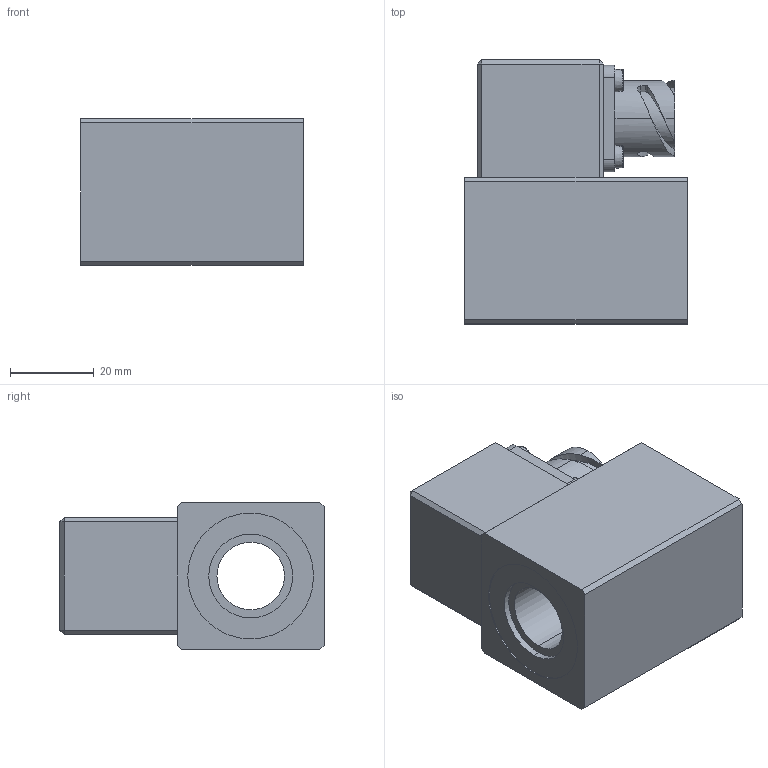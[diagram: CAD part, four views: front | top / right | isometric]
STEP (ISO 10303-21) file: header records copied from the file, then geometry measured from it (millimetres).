
FILE_DESCRIPTION (( 'STEP AP214' ), '1' );
FILE_NAME ('MBS35_16x50-DC.STEP', '2015-07-03T07:57:49', ( '' ), ( '' ), 'SwSTEP 2.0', 'SolidWorks 2014', '' );
FILE_SCHEMA (( 'AUTOMOTIVE_DESIGN' ));
Length unit declared in the file: millimetre
Products named in the file (2): MBS35_16x50-DC
Bounding box: 53 x 63 x 35 mm (x, y, z)
Volume: 79490.3 mm3; surface area: 21753 mm2
Topology: 5 solids, 11 shells, 314 faces, 740 edges, 465 vertices
Faces by surface type: plane 140, cylinder 99, cone 40, torus 26, bspline 9
Entity records: 13194 total; most frequent: CARTESIAN_POINT 2461, DIRECTION 1542, ORIENTED_EDGE 1464, EDGE_CURVE 732, AXIS2_PLACEMENT_3D 605, VERTEX_POINT 465, EDGE_LOOP 355, VECTOR 332
